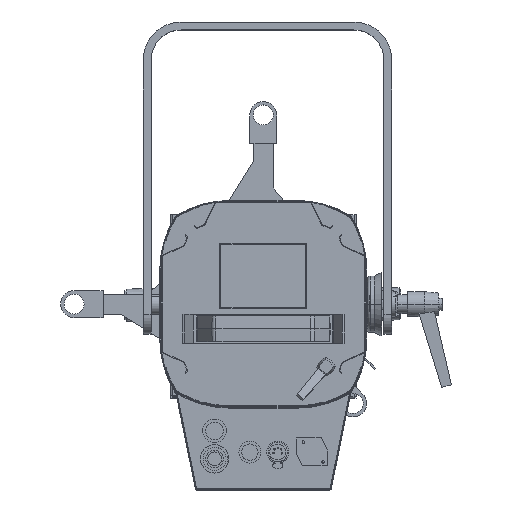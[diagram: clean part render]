
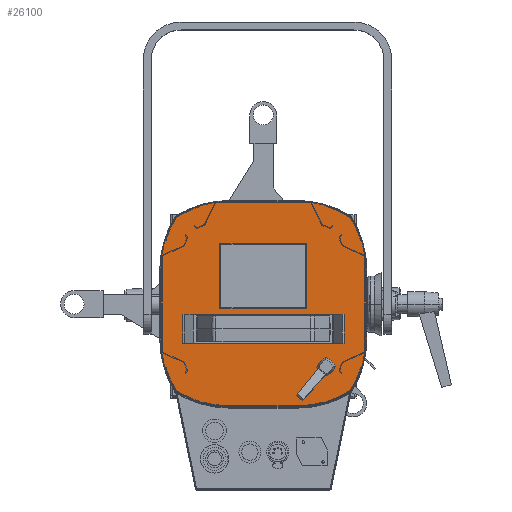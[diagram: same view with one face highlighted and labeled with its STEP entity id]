
A CAD part, top view. The second image highlights one B-rep face of the part: STEP entity #26100.
In plain terms, the highlighted planar face has unit normal (0, 0, 1).
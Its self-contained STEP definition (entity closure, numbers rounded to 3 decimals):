
#56 = CARTESIAN_POINT ( 'NONE',  ( 42.5, 60., 227.1 ) ) ;
#166 = CARTESIAN_POINT ( 'NONE',  ( 88.019, 88.019, 227.1 ) ) ;
#257 = VECTOR ( 'NONE', #28989, 1000. ) ;
#356 = CIRCLE ( 'NONE', #25055, 103.8 ) ;
#582 = DIRECTION ( 'NONE',  ( 1., 0., 0. ) ) ;
#824 = CARTESIAN_POINT ( 'NONE',  ( -103.8, -33., 227.1 ) ) ;
#1539 = CIRCLE ( 'NONE', #8736, 103.8 ) ;
#1966 = ORIENTED_EDGE ( 'NONE', *, *, #31882, .F. ) ;
#2049 = CIRCLE ( 'NONE', #20028, 103.8 ) ;
#2081 = CARTESIAN_POINT ( 'NONE',  ( 42.5, 60., 227.1 ) ) ;
#2438 = EDGE_CURVE ( 'NONE', #5926, #25145, #24610, .T. ) ;
#3239 = VECTOR ( 'NONE', #31491, 1000. ) ;
#3972 = ORIENTED_EDGE ( 'NONE', *, *, #8126, .F. ) ;
#4054 = CARTESIAN_POINT ( 'NONE',  ( -42.5, 60., 227.1 ) ) ;
#4183 = DIRECTION ( 'NONE',  ( 0., -1., 0. ) ) ;
#4396 = ORIENTED_EDGE ( 'NONE', *, *, #25480, .F. ) ;
#4496 = VECTOR ( 'NONE', #27680, 1000. ) ;
#4590 = EDGE_LOOP ( 'NONE', ( #4396, #12195, #30855, #28012, #5044, #31352, #3972, #14860, #22923, #20670, #26057, #9669 ) ) ;
#5044 = ORIENTED_EDGE ( 'NONE', *, *, #7904, .F. ) ;
#5067 = VERTEX_POINT ( 'NONE', #11889 ) ;
#5170 = CARTESIAN_POINT ( 'NONE',  ( -88.019, -88.019, 227.1 ) ) ;
#5573 = LINE ( 'NONE', #8484, #19806 ) ;
#5855 = VERTEX_POINT ( 'NONE', #22721 ) ;
#5926 = VERTEX_POINT ( 'NONE', #166 ) ;
#5972 = VERTEX_POINT ( 'NONE', #26099 ) ;
#6261 = LINE ( 'NONE', #17867, #4496 ) ;
#7269 = CIRCLE ( 'NONE', #16530, 103.8 ) ;
#7555 = FACE_OUTER_BOUND ( 'NONE', #4590, .T. ) ;
#7904 = EDGE_CURVE ( 'NONE', #18702, #23507, #5573, .T. ) ;
#8033 = AXIS2_PLACEMENT_3D ( 'NONE', #28238, #25508, #28398 ) ;
#8126 = EDGE_CURVE ( 'NONE', #24480, #5855, #18809, .T. ) ;
#8484 = CARTESIAN_POINT ( 'NONE',  ( 33., 103.8, 227.1 ) ) ;
#8529 = DIRECTION ( 'NONE',  ( 0., 0., -1. ) ) ;
#8736 = AXIS2_PLACEMENT_3D ( 'NONE', #28005, #8529, #13198 ) ;
#9196 = LINE ( 'NONE', #31572, #257 ) ;
#9210 = DIRECTION ( 'NONE',  ( 1., 0., 0. ) ) ;
#9600 = DIRECTION ( 'NONE',  ( 0., 0., -1. ) ) ;
#9638 = VECTOR ( 'NONE', #13239, 1000. ) ;
#9668 = CARTESIAN_POINT ( 'NONE',  ( 0., -33., 227.1 ) ) ;
#9669 = ORIENTED_EDGE ( 'NONE', *, *, #28497, .F. ) ;
#9670 = CARTESIAN_POINT ( 'NONE',  ( 33., -103.8, 227.1 ) ) ;
#10269 = EDGE_CURVE ( 'NONE', #5067, #24480, #27730, .T. ) ;
#10515 = EDGE_CURVE ( 'NONE', #19213, #15642, #16142, .T. ) ;
#10607 = AXIS2_PLACEMENT_3D ( 'NONE', #22232, #22541, #12246 ) ;
#11805 = CARTESIAN_POINT ( 'NONE',  ( -42.5, -4., 227.1 ) ) ;
#11889 = CARTESIAN_POINT ( 'NONE',  ( -103.8, -33., 227.1 ) ) ;
#12195 = ORIENTED_EDGE ( 'NONE', *, *, #27527, .F. ) ;
#12246 = DIRECTION ( 'NONE',  ( -1., 0., 0. ) ) ;
#12266 = VECTOR ( 'NONE', #4183, 1000. ) ;
#12274 = LINE ( 'NONE', #11805, #16709 ) ;
#12374 = DIRECTION ( 'NONE',  ( 0., 0., -1. ) ) ;
#12909 = CARTESIAN_POINT ( 'NONE',  ( -103.8, 33., 227.1 ) ) ;
#13198 = DIRECTION ( 'NONE',  ( -1., 0., 0. ) ) ;
#13239 = DIRECTION ( 'NONE',  ( 0., 1., 0. ) ) ;
#13243 = DIRECTION ( 'NONE',  ( 1., 0., 0. ) ) ;
#13886 = CARTESIAN_POINT ( 'NONE',  ( 2.5, 60., 227.1 ) ) ;
#14148 = VERTEX_POINT ( 'NONE', #15012 ) ;
#14382 = AXIS2_PLACEMENT_3D ( 'NONE', #31785, #24386, #13243 ) ;
#14620 = CARTESIAN_POINT ( 'NONE',  ( -33., 0., 227.1 ) ) ;
#14768 = ORIENTED_EDGE ( 'NONE', *, *, #22772, .F. ) ;
#14834 = AXIS2_PLACEMENT_3D ( 'NONE', #19897, #9600, #17176 ) ;
#14860 = ORIENTED_EDGE ( 'NONE', *, *, #10269, .F. ) ;
#14982 = FACE_BOUND ( 'NONE', #18734, .T. ) ;
#15012 = CARTESIAN_POINT ( 'NONE',  ( 103.8, -33., 227.1 ) ) ;
#15231 = CIRCLE ( 'NONE', #8033, 103.8 ) ;
#15642 = VERTEX_POINT ( 'NONE', #4054 ) ;
#16105 = CARTESIAN_POINT ( 'NONE',  ( 42.5, -4., 227.1 ) ) ;
#16142 = LINE ( 'NONE', #13886, #23050 ) ;
#16244 = CARTESIAN_POINT ( 'NONE',  ( 103.8, 33., 227.1 ) ) ;
#16380 = VERTEX_POINT ( 'NONE', #21803 ) ;
#16426 = LINE ( 'NONE', #26245, #12266 ) ;
#16530 = AXIS2_PLACEMENT_3D ( 'NONE', #9668, #26443, #9210 ) ;
#16709 = VECTOR ( 'NONE', #26771, 1000. ) ;
#16992 = LINE ( 'NONE', #56, #3239 ) ;
#17097 = EDGE_CURVE ( 'NONE', #23507, #5926, #1539, .T. ) ;
#17135 = EDGE_CURVE ( 'NONE', #19657, #22174, #2049, .T. ) ;
#17176 = DIRECTION ( 'NONE',  ( 1., 0., 0. ) ) ;
#17867 = CARTESIAN_POINT ( 'NONE',  ( -42.5, 14., 227.1 ) ) ;
#18259 = ORIENTED_EDGE ( 'NONE', *, *, #10515, .F. ) ;
#18702 = VERTEX_POINT ( 'NONE', #23234 ) ;
#18734 = EDGE_LOOP ( 'NONE', ( #25336, #18259, #14768, #1966 ) ) ;
#18809 = CIRCLE ( 'NONE', #22387, 103.8 ) ;
#19213 = VERTEX_POINT ( 'NONE', #2081 ) ;
#19656 = PLANE ( 'NONE',  #10607 ) ;
#19657 = VERTEX_POINT ( 'NONE', #31474 ) ;
#19806 = VECTOR ( 'NONE', #582, 1000. ) ;
#19897 = CARTESIAN_POINT ( 'NONE',  ( 0., 33., 227.1 ) ) ;
#20028 = AXIS2_PLACEMENT_3D ( 'NONE', #26244, #26408, #26078 ) ;
#20068 = EDGE_CURVE ( 'NONE', #22174, #5067, #7269, .T. ) ;
#20670 = ORIENTED_EDGE ( 'NONE', *, *, #17135, .F. ) ;
#21586 = CIRCLE ( 'NONE', #14382, 103.8 ) ;
#21803 = CARTESIAN_POINT ( 'NONE',  ( -42.5, -4., 227.1 ) ) ;
#22174 = VERTEX_POINT ( 'NONE', #5170 ) ;
#22232 = CARTESIAN_POINT ( 'NONE',  ( 0., -33., 227.1 ) ) ;
#22387 = AXIS2_PLACEMENT_3D ( 'NONE', #29696, #29233, #26976 ) ;
#22541 = DIRECTION ( 'NONE',  ( 0., 0., -1. ) ) ;
#22721 = CARTESIAN_POINT ( 'NONE',  ( -88.019, 88.019, 227.1 ) ) ;
#22772 = EDGE_CURVE ( 'NONE', #27355, #19213, #16992, .T. ) ;
#22923 = ORIENTED_EDGE ( 'NONE', *, *, #20068, .F. ) ;
#23050 = VECTOR ( 'NONE', #23717, 1000. ) ;
#23234 = CARTESIAN_POINT ( 'NONE',  ( -33., 103.8, 227.1 ) ) ;
#23507 = VERTEX_POINT ( 'NONE', #23697 ) ;
#23697 = CARTESIAN_POINT ( 'NONE',  ( 33., 103.8, 227.1 ) ) ;
#23717 = DIRECTION ( 'NONE',  ( -1., 0., 0. ) ) ;
#24386 = DIRECTION ( 'NONE',  ( 0., 0., -1. ) ) ;
#24448 = DIRECTION ( 'NONE',  ( 1., 0., 0. ) ) ;
#24480 = VERTEX_POINT ( 'NONE', #12909 ) ;
#24610 = CIRCLE ( 'NONE', #14834, 103.8 ) ;
#24791 = EDGE_CURVE ( 'NONE', #28815, #19657, #9196, .T. ) ;
#25055 = AXIS2_PLACEMENT_3D ( 'NONE', #14620, #12374, #24448 ) ;
#25145 = VERTEX_POINT ( 'NONE', #16244 ) ;
#25336 = ORIENTED_EDGE ( 'NONE', *, *, #26218, .F. ) ;
#25480 = EDGE_CURVE ( 'NONE', #14148, #5972, #15231, .T. ) ;
#25508 = DIRECTION ( 'NONE',  ( 0., 0., -1. ) ) ;
#26057 = ORIENTED_EDGE ( 'NONE', *, *, #24791, .F. ) ;
#26078 = DIRECTION ( 'NONE',  ( -1., 0., 0. ) ) ;
#26099 = CARTESIAN_POINT ( 'NONE',  ( 88.019, -88.019, 227.1 ) ) ;
#26100 = ADVANCED_FACE ( 'NONE', ( #14982, #7555 ), #19656, .F. ) ;
#26218 = EDGE_CURVE ( 'NONE', #15642, #16380, #6261, .T. ) ;
#26244 = CARTESIAN_POINT ( 'NONE',  ( -33., 0., 227.1 ) ) ;
#26245 = CARTESIAN_POINT ( 'NONE',  ( 103.8, -33., 227.1 ) ) ;
#26408 = DIRECTION ( 'NONE',  ( 0., 0., -1. ) ) ;
#26443 = DIRECTION ( 'NONE',  ( 0., 0., -1. ) ) ;
#26471 = EDGE_CURVE ( 'NONE', #5855, #18702, #356, .T. ) ;
#26771 = DIRECTION ( 'NONE',  ( 1., 0., 0. ) ) ;
#26976 = DIRECTION ( 'NONE',  ( -1., 0., 0. ) ) ;
#27355 = VERTEX_POINT ( 'NONE', #16105 ) ;
#27527 = EDGE_CURVE ( 'NONE', #25145, #14148, #16426, .T. ) ;
#27680 = DIRECTION ( 'NONE',  ( 0., -1., 0. ) ) ;
#27730 = LINE ( 'NONE', #824, #9638 ) ;
#28005 = CARTESIAN_POINT ( 'NONE',  ( 33., 0., 227.1 ) ) ;
#28012 = ORIENTED_EDGE ( 'NONE', *, *, #17097, .F. ) ;
#28238 = CARTESIAN_POINT ( 'NONE',  ( 0., -33., 227.1 ) ) ;
#28398 = DIRECTION ( 'NONE',  ( -1., 0., 0. ) ) ;
#28497 = EDGE_CURVE ( 'NONE', #5972, #28815, #21586, .T. ) ;
#28815 = VERTEX_POINT ( 'NONE', #9670 ) ;
#28989 = DIRECTION ( 'NONE',  ( -1., 0., 0. ) ) ;
#29233 = DIRECTION ( 'NONE',  ( 0., 0., -1. ) ) ;
#29696 = CARTESIAN_POINT ( 'NONE',  ( 0., 33., 227.1 ) ) ;
#30855 = ORIENTED_EDGE ( 'NONE', *, *, #2438, .F. ) ;
#31352 = ORIENTED_EDGE ( 'NONE', *, *, #26471, .F. ) ;
#31474 = CARTESIAN_POINT ( 'NONE',  ( -33., -103.8, 227.1 ) ) ;
#31491 = DIRECTION ( 'NONE',  ( 0., 1., 0. ) ) ;
#31572 = CARTESIAN_POINT ( 'NONE',  ( 33., -103.8, 227.1 ) ) ;
#31785 = CARTESIAN_POINT ( 'NONE',  ( 33., 0., 227.1 ) ) ;
#31882 = EDGE_CURVE ( 'NONE', #16380, #27355, #12274, .T. ) ;
